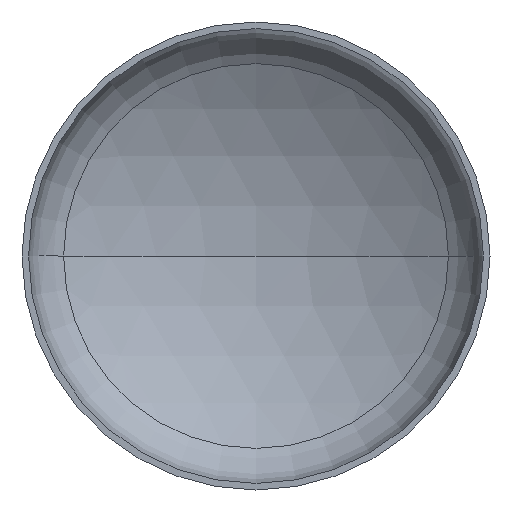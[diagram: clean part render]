
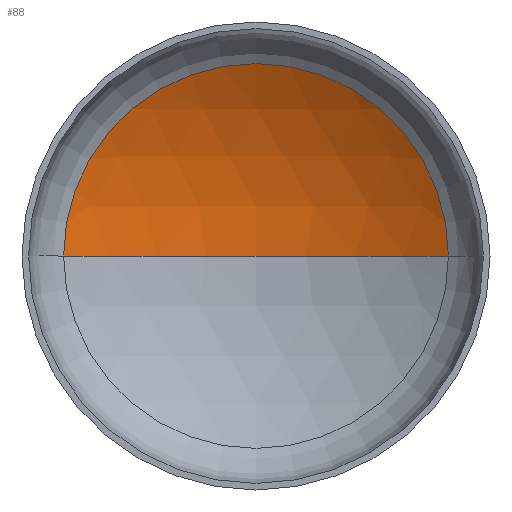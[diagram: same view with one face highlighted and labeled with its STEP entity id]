
A CAD part, front view. The second image highlights one B-rep face of the part: STEP entity #88.
In plain terms, the highlighted spherical face has radius 4400 mm.
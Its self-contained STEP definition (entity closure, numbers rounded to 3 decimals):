
#3 = AXIS2_PLACEMENT_3D ( 'NONE', #206, #183, #184 ) ;
#7 = EDGE_LOOP ( 'NONE', ( #317, #127, #116 ) ) ;
#8 = DIRECTION ( 'NONE',  ( 1., 0., 0. ) ) ;
#15 = DIRECTION ( 'NONE',  ( 0., 0., 1. ) ) ;
#25 = VERTEX_POINT ( 'NONE', #258 ) ;
#31 = CARTESIAN_POINT ( 'NONE',  ( 2261.266, 844.871, 0. ) ) ;
#54 = AXIS2_PLACEMENT_3D ( 'NONE', #114, #15, #8 ) ;
#83 = VERTEX_POINT ( 'NONE', #194 ) ;
#88 = ADVANCED_FACE ( 'NONE', ( #292 ), #354, .F. ) ;
#103 = EDGE_CURVE ( 'NONE', #147, #25, #134, .T. ) ;
#110 = EDGE_CURVE ( 'NONE', #83, #147, #168, .T. ) ;
#114 = CARTESIAN_POINT ( 'NONE',  ( 0., -2929.606, 0. ) ) ;
#116 = ORIENTED_EDGE ( 'NONE', *, *, #103, .T. ) ;
#121 = EDGE_CURVE ( 'NONE', #83, #25, #401, .T. ) ;
#127 = ORIENTED_EDGE ( 'NONE', *, *, #110, .T. ) ;
#134 = CIRCLE ( 'NONE', #399, 2261.266 ) ;
#147 = VERTEX_POINT ( 'NONE', #31 ) ;
#168 = CIRCLE ( 'NONE', #3, 4400. ) ;
#183 = DIRECTION ( 'NONE',  ( 0., 0., -1. ) ) ;
#184 = DIRECTION ( 'NONE',  ( -1., 0., 0. ) ) ;
#194 = CARTESIAN_POINT ( 'NONE',  ( 0., 1470.394, 0. ) ) ;
#206 = CARTESIAN_POINT ( 'NONE',  ( 0., -2929.606, 0. ) ) ;
#224 = DIRECTION ( 'NONE',  ( 1., 0., 0. ) ) ;
#258 = CARTESIAN_POINT ( 'NONE',  ( -2261.266, 844.871, 0. ) ) ;
#292 = FACE_OUTER_BOUND ( 'NONE', #7, .T. ) ;
#305 = DIRECTION ( 'NONE',  ( 0., -1., 0. ) ) ;
#306 = CARTESIAN_POINT ( 'NONE',  ( 0., 844.871, 0. ) ) ;
#313 = DIRECTION ( 'NONE',  ( -1., 0., 0. ) ) ;
#317 = ORIENTED_EDGE ( 'NONE', *, *, #121, .F. ) ;
#354 = SPHERICAL_SURFACE ( 'NONE', #389, 4400. ) ;
#368 = CARTESIAN_POINT ( 'NONE',  ( 0., -2929.606, 0. ) ) ;
#388 = DIRECTION ( 'NONE',  ( 0., 0., -1. ) ) ;
#389 = AXIS2_PLACEMENT_3D ( 'NONE', #368, #388, #313 ) ;
#399 = AXIS2_PLACEMENT_3D ( 'NONE', #306, #305, #224 ) ;
#401 = CIRCLE ( 'NONE', #54, 4400. ) ;
